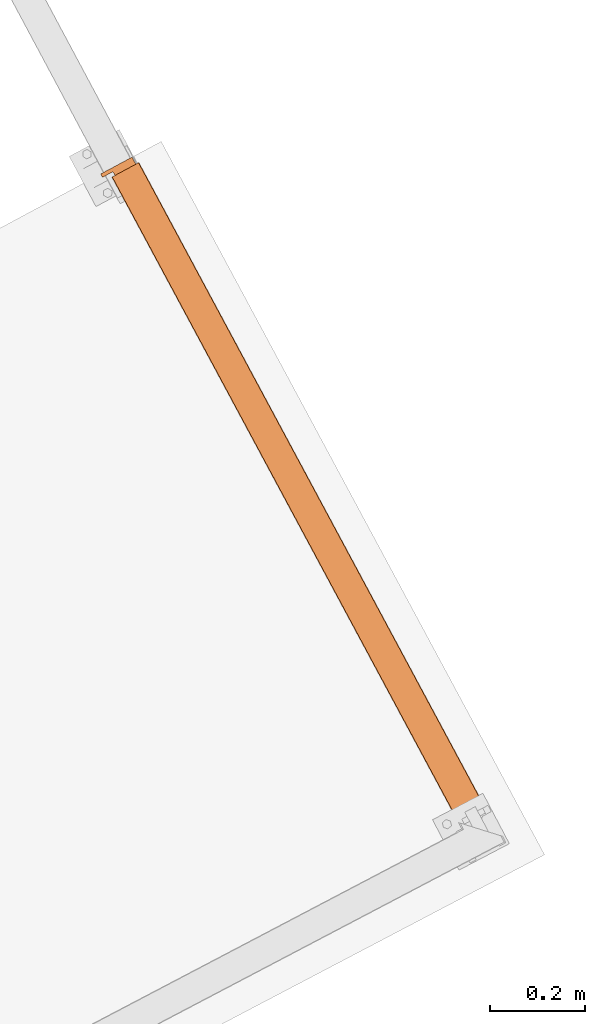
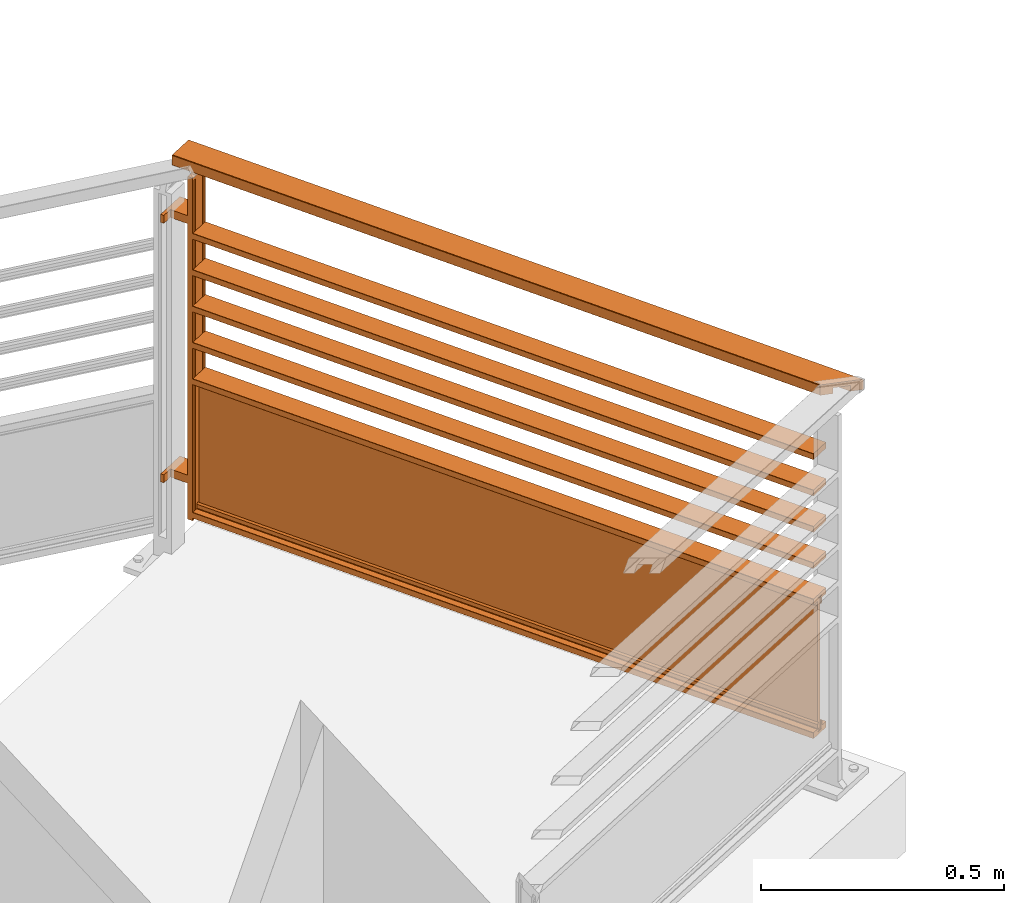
# One storey, part 121 of 121: 1 proxy.
"""IFC2X3 building model written with IfcOpenShell, lengths in metres."""

from ifc_helpers import new_model, entity, si_unit, converted_unit, derived_unit, money_unit, direction, frame, origin_with_axes, place, context, subcontext, project, spatial, faceted_brep, type_object, element, save


model = new_model("IFC2X3")

# Units and contexts
model_context = context("Model", 3, precision=1e-05, world=origin_with_axes(), true_north=direction((0.0, 1.0)))
body_context = subcontext(model_context, "Body", "Model", "MODEL_VIEW")
ifc_project = project(units=[si_unit("LENGTHUNIT", "METRE"), si_unit("AREAUNIT", "SQUARE_METRE"), si_unit("VOLUMEUNIT", "CUBIC_METRE"), converted_unit("PLANEANGLEUNIT", "DEGREE", entity("IfcPlaneAngleMeasure", 0.0174532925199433), si_unit("PLANEANGLEUNIT", "RADIAN"), dimensions=[0, 0, 0, 0, 0, 0, 0]), money_unit("CHF"), converted_unit("TIMEUNIT", "Year", entity("IfcTimeMeasure", 31557600.0), si_unit("TIMEUNIT", "SECOND"), dimensions=[0, 0, 1, 0, 0, 0, 0]), si_unit("MASSUNIT", "GRAM", prefix="KILO"), si_unit("THERMODYNAMICTEMPERATUREUNIT", "DEGREE_CELSIUS"), si_unit("LUMINOUSINTENSITYUNIT", "LUMEN"), si_unit("ENERGYUNIT", "JOULE", prefix="MEGA"), derived_unit("THERMALCONDUCTANCEUNIT", [(si_unit("POWERUNIT", "WATT"), 1), (si_unit("LENGTHUNIT", "METRE"), -1), (si_unit("THERMODYNAMICTEMPERATUREUNIT", "KELVIN"), -1)]), derived_unit("SPECIFICHEATCAPACITYUNIT", [(si_unit("ENERGYUNIT", "JOULE"), 1), (si_unit("MASSUNIT", "GRAM", prefix="KILO"), -1), (si_unit("THERMODYNAMICTEMPERATUREUNIT", "KELVIN"), -1)]), derived_unit("MASSDENSITYUNIT", [(si_unit("MASSUNIT", "GRAM", prefix="KILO"), 1), (si_unit("VOLUMEUNIT", "CUBIC_METRE"), -1)])], contexts=[model_context])

# Site, building, storey
site_placement = place(None, origin_with_axes())
site = spatial("IfcSite", under=ifc_project, at=site_placement, Name="Site", CompositionType="ELEMENT")
building_placement = place(site_placement, origin_with_axes())
building = spatial("IfcBuilding", under=site, at=building_placement, Name="Bâtiment", CompositionType="ELEMENT")
storey_placement = place(building_placement, frame((0.0, 0.0, 2.75), z_axis=(0.0, 0.0, 1.0), x_axis=(1.0, 0.0, 0.0)))
storey = spatial("IfcBuildingStorey", under=building, at=storey_placement, Name="Etage 1", CompositionType="ELEMENT", Elevation=2.75)

# Proxy
building_element_proxy_type = type_object("IfcBuildingElementProxyType", PredefinedType="NOTDEFINED")
proxy_placement = place(storey_placement, frame((9565.89406663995, -1029.67760909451, 57.7), z_axis=(0.0, 0.0, 1.0), x_axis=(0.4730779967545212, -0.8810205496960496, 0.0)))
element("IfcBuildingElementProxy", 1, at=proxy_placement, inside=storey, type_object=building_element_proxy_type, Name="Obj.-003", context=body_context, shape_type="Brep", body=[
    faceted_brep([(0.01999999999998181, -0.06350000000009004, 0.9731000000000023), (0.01700000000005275, -0.06349999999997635, 0.9731000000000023), (0.01699999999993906, -0.06250000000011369, 0.9741), (0.01999999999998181, -0.0625, 0.9741), (0.01999999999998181, -0.1265000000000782, 0.9731000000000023), (0.01699999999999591, -0.1264999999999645, 0.9731000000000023), (0.01699999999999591, -0.1274999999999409, 0.9741), (0.01699999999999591, -0.1274999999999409, 0.9981050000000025), (0.01699999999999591, -0.1265630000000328, 0.9991029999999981), (0.01699999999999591, -0.06343699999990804, 0.9991029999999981), (0.01699999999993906, -0.06250000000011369, 0.9981050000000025), (0.01999999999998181, -0.0625, 0.9981050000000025), (0.01999999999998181, -0.06343700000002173, 0.9991029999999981), (0.01999999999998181, -0.1265629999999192, 0.9991029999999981), (0.01999999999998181, -0.1275000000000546, 0.9981050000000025), (0.01999999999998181, -0.1275000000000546, 0.9741)], [[[0, 1, 2, 3]], [[4, 5, 1, 0]], [[1, 5, 6, 7, 8, 9, 10, 2]], [[3, 2, 10, 11]], [[0, 3, 11, 12, 13, 14, 15, 4]], [[15, 6, 5, 4]], [[14, 7, 6, 15]], [[13, 8, 7, 14]], [[12, 9, 8, 13]], [[11, 10, 9, 12]]]),
    faceted_brep([(0.01999999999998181, -0.0625, 0.9981050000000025), (0.01999999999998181, -0.0634368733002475, 0.9991030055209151), (1.645816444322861, -0.0634368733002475, 0.9991030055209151), (1.646753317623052, -0.0625, 0.9981050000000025), (0.01999999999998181, -0.0625, 0.9741), (0.01999999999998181, -0.06350000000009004, 0.9731000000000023), (0.01999999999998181, -0.08199999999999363, 0.9731000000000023), (0.01999999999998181, -0.08199999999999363, 0.9876999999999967), (0.01999999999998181, -0.1079999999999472, 0.9876999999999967), (0.01999999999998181, -0.1079999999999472, 0.9731000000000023), (0.01999999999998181, -0.1265000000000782, 0.9731000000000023), (0.01999999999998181, -0.1275000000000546, 0.9741), (0.01999999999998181, -0.1274999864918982, 0.9981051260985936), (0.01999999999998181, -0.1265632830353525, 0.9991029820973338), (1.582690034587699, -0.1265632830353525, 0.9991029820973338), (1.581753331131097, -0.1274999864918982, 0.9981051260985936), (1.581753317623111, -0.1275000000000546, 0.9741), (1.582753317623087, -0.1264999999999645, 0.9731000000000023), (1.601253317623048, -0.1079999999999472, 0.9731000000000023), (1.601253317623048, -0.1079999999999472, 0.9876999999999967), (1.627253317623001, -0.08200000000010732, 0.9876999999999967), (1.627253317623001, -0.08200000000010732, 0.9731000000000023), (1.645753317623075, -0.06349999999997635, 0.9731000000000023), (1.646753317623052, -0.0625, 0.9741)], [[[0, 1, 2, 3]], [[0, 4, 5, 6, 7, 8, 9, 10, 11, 12, 13, 1]], [[1, 13, 14, 2]], [[3, 2, 14, 15, 16, 17, 18, 19, 20, 21, 22, 23]], [[4, 0, 3, 23]], [[5, 4, 23, 22]], [[6, 5, 22, 21]], [[7, 6, 21, 20]], [[8, 7, 20, 19]], [[9, 8, 19, 18]], [[10, 9, 18, 17]], [[11, 10, 17, 16]], [[12, 11, 16, 15]], [[13, 12, 15, 14]]]),
    faceted_brep([(0.007999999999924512, -0.1200000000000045, 0.1839999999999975), (0.04949999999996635, -0.1200000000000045, 0.1839999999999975), (0.04949999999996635, -0.1200000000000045, 0.2040000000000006), (0.007999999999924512, -0.1200000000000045, 0.2040000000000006), (0.007999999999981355, -0.1450000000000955, 0.1839999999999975), (0.0, -0.1449999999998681, 0.1839999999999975), (0.0, -0.07000000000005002, 0.1839999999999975), (0.04949999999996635, -0.07000000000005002, 0.1839999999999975), (0.04949999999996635, -0.07000000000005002, 0.2040000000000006), (0.0, -0.07000000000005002, 0.2040000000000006), (0.0, -0.1449999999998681, 0.2040000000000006), (0.007999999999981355, -0.1450000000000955, 0.2040000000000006)], [[[0, 1, 2, 3]], [[0, 4, 5, 6, 7, 1]], [[1, 7, 8, 2]], [[3, 2, 8, 9, 10, 11]], [[4, 0, 3, 11]], [[5, 4, 11, 10]], [[6, 5, 10, 9]], [[7, 6, 9, 8]]]),
    faceted_brep([(0.007999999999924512, -0.1200000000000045, 0.8346000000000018), (0.04949999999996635, -0.1200000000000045, 0.8346000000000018), (0.04949999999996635, -0.1200000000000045, 0.8545999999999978), (0.007999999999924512, -0.1200000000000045, 0.8545999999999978), (0.007999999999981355, -0.1450000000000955, 0.8346000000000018), (0.0, -0.1449999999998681, 0.8346000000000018), (0.0, -0.07000000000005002, 0.8346000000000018), (0.04949999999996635, -0.07000000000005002, 0.8346000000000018), (0.04949999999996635, -0.07000000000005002, 0.8545999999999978), (0.0, -0.07000000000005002, 0.8545999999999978), (0.0, -0.1449999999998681, 0.8545999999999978), (0.007999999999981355, -0.1450000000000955, 0.8545999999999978)], [[[0, 1, 2, 3]], [[0, 4, 5, 6, 7, 1]], [[1, 7, 8, 2]], [[3, 2, 8, 9, 10, 11]], [[4, 0, 3, 11]], [[5, 4, 11, 10]], [[6, 5, 10, 9]], [[7, 6, 9, 8]]]),
    faceted_brep([(0.05619999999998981, -0.1080000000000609, 0.0940000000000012), (0.06199999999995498, -0.1080000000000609, 0.0940000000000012), (0.06199999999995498, -0.1080000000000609, 0.9446000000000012), (0.05619999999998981, -0.1080000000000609, 0.9446000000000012), (0.05619999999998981, -0.1140000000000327, 0.0940000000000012), (0.06199999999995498, -0.1140000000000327, 0.0940000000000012), (0.06200000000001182, -0.1200000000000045, 0.0940000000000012), (0.04999999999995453, -0.1200000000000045, 0.0940000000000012), (0.04999999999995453, -0.07000000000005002, 0.0940000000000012), (0.06199999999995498, -0.06999999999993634, 0.0940000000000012), (0.06200000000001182, -0.07600000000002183, 0.0940000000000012), (0.05619999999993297, -0.07600000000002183, 0.0940000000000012), (0.05619999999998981, -0.08199999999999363, 0.0940000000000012), (0.06200000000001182, -0.08199999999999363, 0.0940000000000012), (0.06200000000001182, -0.08199999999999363, 0.9446000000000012), (0.05619999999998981, -0.08199999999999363, 0.9446000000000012), (0.05619999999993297, -0.07600000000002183, 0.9446000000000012), (0.06200000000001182, -0.07600000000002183, 0.9446000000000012), (0.06199999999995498, -0.06999999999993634, 0.9446000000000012), (0.04999999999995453, -0.07000000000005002, 0.9446000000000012), (0.04999999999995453, -0.1200000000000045, 0.9446000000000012), (0.06200000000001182, -0.1200000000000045, 0.9446000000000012), (0.06199999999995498, -0.1140000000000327, 0.9446000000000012), (0.05619999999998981, -0.1140000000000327, 0.9446000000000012)], [[[0, 1, 2, 3]], [[0, 4, 5, 6, 7, 8, 9, 10, 11, 12, 13, 1]], [[1, 13, 14, 2]], [[3, 2, 14, 15, 16, 17, 18, 19, 20, 21, 22, 23]], [[4, 0, 3, 23]], [[5, 4, 23, 22]], [[6, 5, 22, 21]], [[7, 6, 21, 20]], [[8, 7, 20, 19]], [[9, 8, 19, 18]], [[10, 9, 18, 17]], [[11, 10, 17, 16]], [[12, 11, 16, 15]], [[13, 12, 15, 14]]]),
    faceted_brep([(0.06200000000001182, -0.1200000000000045, 0.9528999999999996), (0.06200000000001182, -0.1075000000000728, 0.9528999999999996), (0.04999999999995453, -0.1075000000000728, 0.9528999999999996), (0.04999999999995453, -0.1200000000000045, 0.9528999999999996), (0.06200000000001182, -0.1200000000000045, 0.9446000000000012), (0.06199999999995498, -0.06999999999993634, 0.9446000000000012), (0.06199999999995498, -0.06999999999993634, 0.9528999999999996), (0.06199999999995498, -0.08249999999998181, 0.9528999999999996), (0.06199999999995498, -0.08249999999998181, 0.9806000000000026), (0.06200000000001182, -0.1075000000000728, 0.9806000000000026), (0.04999999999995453, -0.1075000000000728, 0.9806000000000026), (0.04999999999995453, -0.0825000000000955, 0.9806000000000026), (0.04999999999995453, -0.0825000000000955, 0.9528999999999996), (0.04999999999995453, -0.07000000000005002, 0.9528999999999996), (0.04999999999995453, -0.07000000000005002, 0.9446000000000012), (0.04999999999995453, -0.1200000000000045, 0.9446000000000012)], [[[0, 1, 2, 3]], [[0, 4, 5, 6, 7, 8, 9, 1]], [[1, 9, 10, 2]], [[3, 2, 10, 11, 12, 13, 14, 15]], [[4, 0, 3, 15]], [[5, 4, 15, 14]], [[6, 5, 14, 13]], [[7, 6, 13, 12]], [[8, 7, 12, 11]], [[9, 8, 11, 10]]]),
    faceted_brep([(0.06200000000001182, -0.09939999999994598, 0.129207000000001), (1.561471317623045, -0.09939999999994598, 0.129207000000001), (1.561471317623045, -0.09939999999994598, 0.1107510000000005), (0.06200000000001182, -0.09939999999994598, 0.1107510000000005), (0.06200000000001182, -0.1036083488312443, 0.1266456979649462), (1.561471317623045, -0.1036083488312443, 0.1266456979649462), (1.561471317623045, -0.1014000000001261, 0.1266460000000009), (1.561471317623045, -0.1014000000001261, 0.1082510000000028), (1.561471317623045, -0.0886000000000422, 0.1082510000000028), (1.561471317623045, -0.0886000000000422, 0.1266460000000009), (1.561471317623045, -0.08639200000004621, 0.1266460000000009), (1.561471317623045, -0.09060045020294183, 0.1292068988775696), (1.561471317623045, -0.0905999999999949, 0.1107510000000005), (0.06199999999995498, -0.0905999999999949, 0.1107510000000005), (0.06200000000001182, -0.09060045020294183, 0.1292068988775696), (0.06200000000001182, -0.08639200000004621, 0.1266460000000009), (0.06199999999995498, -0.0886000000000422, 0.1266460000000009), (0.06199999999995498, -0.0886000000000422, 0.1082510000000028), (0.06199999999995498, -0.1014000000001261, 0.1082510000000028), (0.06199999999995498, -0.1014000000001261, 0.1266460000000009)], [[[0, 1, 2, 3]], [[4, 5, 1, 0]], [[1, 5, 6, 7, 8, 9, 10, 11, 12, 2]], [[3, 2, 12, 13]], [[0, 3, 13, 14, 15, 16, 17, 18, 19, 4]], [[19, 6, 5, 4]], [[18, 7, 6, 19]], [[17, 8, 7, 18]], [[16, 9, 8, 17]], [[15, 10, 9, 16]], [[14, 11, 10, 15]], [[13, 12, 11, 14]]]),
    faceted_brep([(0.06199999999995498, -0.08849999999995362, 0.1062999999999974), (1.561471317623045, -0.08849999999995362, 0.1062999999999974), (1.561471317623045, -0.08849999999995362, 0.1263000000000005), (0.06199999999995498, -0.08849999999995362, 0.1263000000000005), (0.06200000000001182, -0.1014999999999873, 0.1062999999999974), (1.561471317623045, -0.101500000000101, 0.1062999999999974), (1.561471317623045, -0.101500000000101, 0.1263000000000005), (1.561471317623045, -0.1029999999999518, 0.1263000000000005), (1.561471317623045, -0.1035000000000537, 0.1257999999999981), (1.561471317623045, -0.1035000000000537, 0.1159999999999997), (1.561471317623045, -0.10450000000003, 0.115000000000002), (1.561471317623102, -0.1194999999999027, 0.115000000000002), (1.561471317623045, -0.1200000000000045, 0.1144999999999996), (1.561471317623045, -0.1200000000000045, 0.1004999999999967), (1.561471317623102, -0.1194999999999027, 0.1000000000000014), (1.561471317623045, -0.0705000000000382, 0.1000000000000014), (1.561471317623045, -0.06999999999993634, 0.1004999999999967), (1.561471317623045, -0.06999999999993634, 0.1144999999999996), (1.561471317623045, -0.0705000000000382, 0.115000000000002), (1.561471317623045, -0.08550000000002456, 0.115000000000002), (1.561471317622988, -0.0865000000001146, 0.1159999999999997), (1.561471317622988, -0.0865000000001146, 0.1257999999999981), (1.561471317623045, -0.08664644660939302, 0.1261535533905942), (1.561471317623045, -0.08699999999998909, 0.1263000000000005), (0.06200000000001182, -0.08699999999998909, 0.1263000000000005), (0.06200000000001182, -0.08664644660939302, 0.1261535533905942), (0.06199999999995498, -0.0865000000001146, 0.1257999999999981), (0.06199999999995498, -0.0865000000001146, 0.1159999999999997), (0.06199999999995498, -0.08550000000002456, 0.115000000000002), (0.06199999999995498, -0.0705000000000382, 0.115000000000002), (0.06199999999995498, -0.06999999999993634, 0.1144999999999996), (0.06199999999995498, -0.06999999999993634, 0.1004999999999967), (0.06199999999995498, -0.0705000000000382, 0.1000000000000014), (0.06200000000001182, -0.1194999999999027, 0.1000000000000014), (0.06200000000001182, -0.1200000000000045, 0.1004999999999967), (0.06200000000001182, -0.1200000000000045, 0.1144999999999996), (0.06200000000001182, -0.1194999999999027, 0.115000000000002), (0.06200000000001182, -0.10450000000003, 0.115000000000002), (0.06200000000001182, -0.1035000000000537, 0.1159999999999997), (0.06200000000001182, -0.1035000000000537, 0.1257999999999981), (0.06199999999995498, -0.1030000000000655, 0.1263000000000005), (0.06200000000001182, -0.1014999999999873, 0.1263000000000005)], [[[0, 1, 2, 3]], [[4, 5, 1, 0]], [[1, 5, 6, 7, 8, 9, 10, 11, 12, 13, 14, 15, 16, 17, 18, 19, 20, 21, 22, 23, 2]], [[3, 2, 23, 24]], [[0, 3, 24, 25, 26, 27, 28, 29, 30, 31, 32, 33, 34, 35, 36, 37, 38, 39, 40, 41, 4]], [[41, 6, 5, 4]], [[40, 7, 6, 41]], [[39, 8, 7, 40]], [[38, 9, 8, 39]], [[37, 10, 9, 38]], [[36, 11, 10, 37]], [[35, 12, 11, 36]], [[34, 13, 12, 35]], [[33, 14, 13, 34]], [[32, 15, 14, 33]], [[31, 16, 15, 32]], [[30, 17, 16, 31]], [[29, 18, 17, 30]], [[28, 19, 18, 29]], [[27, 20, 19, 28]], [[26, 21, 20, 27]], [[25, 22, 21, 26]], [[24, 23, 22, 25]]]),
    faceted_brep([(0.06200000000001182, -0.09939999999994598, 0.4207930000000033), (0.06200000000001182, -0.09939999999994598, 0.4392489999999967), (1.561471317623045, -0.09939999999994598, 0.4392489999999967), (1.561471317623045, -0.09939999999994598, 0.4207930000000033), (0.06200000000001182, -0.1036083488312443, 0.423354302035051), (0.06199999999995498, -0.1014000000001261, 0.4233540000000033), (0.06199999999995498, -0.1014000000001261, 0.4417490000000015), (0.06199999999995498, -0.0886000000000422, 0.4417490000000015), (0.06199999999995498, -0.0886000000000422, 0.4233540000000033), (0.06200000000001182, -0.08639200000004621, 0.4233540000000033), (0.06200000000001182, -0.09060045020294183, 0.4207931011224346), (0.06199999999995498, -0.0905999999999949, 0.4392489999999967), (1.561471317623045, -0.0905999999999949, 0.4392489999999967), (1.561471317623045, -0.09060045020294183, 0.4207931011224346), (1.561471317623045, -0.08639200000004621, 0.4233540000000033), (1.561471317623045, -0.0886000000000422, 0.4233540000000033), (1.561471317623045, -0.0886000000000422, 0.4417490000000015), (1.561471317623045, -0.1014000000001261, 0.4417490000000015), (1.561471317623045, -0.1014000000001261, 0.4233540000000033), (1.561471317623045, -0.1036083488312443, 0.423354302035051)], [[[0, 1, 2, 3]], [[0, 4, 5, 6, 7, 8, 9, 10, 11, 1]], [[1, 11, 12, 2]], [[3, 2, 12, 13, 14, 15, 16, 17, 18, 19]], [[4, 0, 3, 19]], [[5, 4, 19, 18]], [[6, 5, 18, 17]], [[7, 6, 17, 16]], [[8, 7, 16, 15]], [[9, 8, 15, 14]], [[10, 9, 14, 13]], [[11, 10, 13, 12]]]),
    faceted_brep([(0.06199999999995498, -0.08849999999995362, 0.4436999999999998), (0.06199999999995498, -0.08849999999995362, 0.4236999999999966), (1.561471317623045, -0.08849999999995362, 0.4236999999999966), (1.561471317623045, -0.08849999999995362, 0.4436999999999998), (0.06200000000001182, -0.1014999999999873, 0.4436999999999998), (0.06200000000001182, -0.1014999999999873, 0.4236999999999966), (0.06199999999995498, -0.1030000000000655, 0.4236999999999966), (0.06200000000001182, -0.1035000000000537, 0.424199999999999), (0.06200000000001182, -0.1035000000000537, 0.4339999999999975), (0.06200000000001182, -0.10450000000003, 0.4350000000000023), (0.06200000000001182, -0.1194999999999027, 0.4350000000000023), (0.06200000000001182, -0.1200000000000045, 0.4354999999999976), (0.06200000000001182, -0.1200000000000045, 0.4495000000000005), (0.06200000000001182, -0.1194999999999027, 0.4500000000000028), (0.06199999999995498, -0.0705000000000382, 0.4500000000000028), (0.06199999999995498, -0.06999999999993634, 0.4495000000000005), (0.06199999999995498, -0.06999999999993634, 0.4354999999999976), (0.06199999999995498, -0.0705000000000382, 0.4350000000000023), (0.06199999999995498, -0.08550000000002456, 0.4350000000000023), (0.06199999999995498, -0.0865000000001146, 0.4339999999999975), (0.06199999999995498, -0.0865000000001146, 0.424199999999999), (0.06200000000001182, -0.08664644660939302, 0.4238464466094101), (0.06200000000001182, -0.08699999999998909, 0.4236999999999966), (1.561471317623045, -0.08699999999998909, 0.4236999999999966), (1.561471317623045, -0.08664644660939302, 0.4238464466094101), (1.561471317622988, -0.0865000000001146, 0.424199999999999), (1.561471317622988, -0.0865000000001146, 0.4339999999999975), (1.561471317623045, -0.08550000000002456, 0.4350000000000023), (1.561471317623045, -0.0705000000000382, 0.4350000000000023), (1.561471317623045, -0.06999999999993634, 0.4354999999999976), (1.561471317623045, -0.06999999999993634, 0.4495000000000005), (1.561471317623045, -0.0705000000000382, 0.4500000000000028), (1.561471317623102, -0.1194999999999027, 0.4500000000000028), (1.561471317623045, -0.1200000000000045, 0.4495000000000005), (1.561471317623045, -0.1200000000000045, 0.4354999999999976), (1.561471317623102, -0.1194999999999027, 0.4350000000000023), (1.561471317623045, -0.10450000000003, 0.4350000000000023), (1.561471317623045, -0.1035000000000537, 0.4339999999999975), (1.561471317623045, -0.1035000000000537, 0.424199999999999), (1.561471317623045, -0.1029999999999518, 0.4236999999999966), (1.561471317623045, -0.101500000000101, 0.4236999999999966), (1.561471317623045, -0.101500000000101, 0.4436999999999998)], [[[0, 1, 2, 3]], [[0, 4, 5, 6, 7, 8, 9, 10, 11, 12, 13, 14, 15, 16, 17, 18, 19, 20, 21, 22, 1]], [[1, 22, 23, 2]], [[3, 2, 23, 24, 25, 26, 27, 28, 29, 30, 31, 32, 33, 34, 35, 36, 37, 38, 39, 40, 41]], [[4, 0, 3, 41]], [[5, 4, 41, 40]], [[6, 5, 40, 39]], [[7, 6, 39, 38]], [[8, 7, 38, 37]], [[9, 8, 37, 36]], [[10, 9, 36, 35]], [[11, 10, 35, 34]], [[12, 11, 34, 33]], [[13, 12, 33, 32]], [[14, 13, 32, 31]], [[15, 14, 31, 30]], [[16, 15, 30, 29]], [[17, 16, 29, 28]], [[18, 17, 28, 27]], [[19, 18, 27, 26]], [[20, 19, 26, 25]], [[21, 20, 25, 24]], [[22, 21, 24, 23]]]),
    faceted_brep([(0.0644999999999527, -0.09940000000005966, 0.1120000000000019), (0.06450000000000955, -0.09059999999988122, 0.1120000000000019), (1.558971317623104, -0.0905999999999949, 0.1120000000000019), (1.558971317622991, -0.09940000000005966, 0.1120000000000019), (0.0644999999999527, -0.09940000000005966, 0.4380000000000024), (0.06450000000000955, -0.09059999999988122, 0.4380000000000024), (1.558971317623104, -0.0905999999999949, 0.4380000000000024), (1.558971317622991, -0.09940000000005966, 0.4380000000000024)], [[[0, 1, 2, 3]], [[1, 0, 4, 5]], [[2, 1, 5, 6]], [[3, 2, 6, 7]], [[0, 3, 7, 4]], [[5, 4, 7, 6]]]),
    faceted_brep([(0.06199999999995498, -0.06999999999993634, 0.8001000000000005), (0.06199999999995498, -0.06999999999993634, 0.8141000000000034), (1.561471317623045, -0.06999999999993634, 0.8141000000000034), (1.561471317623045, -0.06999999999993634, 0.8001000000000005), (0.06199999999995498, -0.0705000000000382, 0.7995999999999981), (0.06200000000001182, -0.1194999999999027, 0.7995999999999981), (0.06200000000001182, -0.1200000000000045, 0.8001000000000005), (0.06200000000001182, -0.1200000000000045, 0.8141000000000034), (0.06200000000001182, -0.1194999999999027, 0.8145999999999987), (0.06199999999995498, -0.0705000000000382, 0.8145999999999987), (1.561471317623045, -0.0705000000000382, 0.8145999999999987), (1.561471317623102, -0.1194999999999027, 0.8145999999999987), (1.561471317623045, -0.1200000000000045, 0.8141000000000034), (1.561471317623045, -0.1200000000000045, 0.8001000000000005), (1.561471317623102, -0.1194999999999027, 0.7995999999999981), (1.561471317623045, -0.0705000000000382, 0.7995999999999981)], [[[0, 1, 2, 3]], [[0, 4, 5, 6, 7, 8, 9, 1]], [[1, 9, 10, 2]], [[3, 2, 10, 11, 12, 13, 14, 15]], [[4, 0, 3, 15]], [[5, 4, 15, 14]], [[6, 5, 14, 13]], [[7, 6, 13, 12]], [[8, 7, 12, 11]], [[9, 8, 11, 10]]]),
    faceted_brep([(0.06199999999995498, -0.06999999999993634, 0.7089500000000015), (0.06199999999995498, -0.06999999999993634, 0.7229499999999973), (1.561471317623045, -0.06999999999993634, 0.7229499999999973), (1.561471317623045, -0.06999999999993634, 0.7089500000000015), (0.06199999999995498, -0.0705000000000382, 0.7084499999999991), (0.06200000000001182, -0.1194999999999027, 0.7084499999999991), (0.06200000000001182, -0.1200000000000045, 0.7089500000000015), (0.06200000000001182, -0.1200000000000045, 0.7229499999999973), (0.06200000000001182, -0.1194999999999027, 0.7234499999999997), (0.06199999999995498, -0.0705000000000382, 0.7234499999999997), (1.561471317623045, -0.0705000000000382, 0.7234499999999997), (1.561471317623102, -0.1194999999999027, 0.7234499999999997), (1.561471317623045, -0.1200000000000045, 0.7229499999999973), (1.561471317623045, -0.1200000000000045, 0.7089500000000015), (1.561471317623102, -0.1194999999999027, 0.7084499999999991), (1.561471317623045, -0.0705000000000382, 0.7084499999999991)], [[[0, 1, 2, 3]], [[0, 4, 5, 6, 7, 8, 9, 1]], [[1, 9, 10, 2]], [[3, 2, 10, 11, 12, 13, 14, 15]], [[4, 0, 3, 15]], [[5, 4, 15, 14]], [[6, 5, 14, 13]], [[7, 6, 13, 12]], [[8, 7, 12, 11]], [[9, 8, 11, 10]]]),
    faceted_brep([(0.06199999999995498, -0.06999999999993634, 0.6178000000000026), (0.06199999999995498, -0.06999999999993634, 0.6317999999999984), (1.561471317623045, -0.06999999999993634, 0.6317999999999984), (1.561471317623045, -0.06999999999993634, 0.6178000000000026), (0.06199999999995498, -0.0705000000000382, 0.6173000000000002), (0.06200000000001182, -0.1194999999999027, 0.6173000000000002), (0.06200000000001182, -0.1200000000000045, 0.6178000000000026), (0.06200000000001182, -0.1200000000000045, 0.6317999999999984), (0.06200000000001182, -0.1194999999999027, 0.6323000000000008), (0.06199999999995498, -0.0705000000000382, 0.6323000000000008), (1.561471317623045, -0.0705000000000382, 0.6323000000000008), (1.561471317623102, -0.1194999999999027, 0.6323000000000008), (1.561471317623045, -0.1200000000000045, 0.6317999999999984), (1.561471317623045, -0.1200000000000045, 0.6178000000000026), (1.561471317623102, -0.1194999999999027, 0.6173000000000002), (1.561471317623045, -0.0705000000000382, 0.6173000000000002)], [[[0, 1, 2, 3]], [[0, 4, 5, 6, 7, 8, 9, 1]], [[1, 9, 10, 2]], [[3, 2, 10, 11, 12, 13, 14, 15]], [[4, 0, 3, 15]], [[5, 4, 15, 14]], [[6, 5, 14, 13]], [[7, 6, 13, 12]], [[8, 7, 12, 11]], [[9, 8, 11, 10]]]),
    faceted_brep([(0.06199999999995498, -0.06999999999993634, 0.5266500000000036), (0.06199999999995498, -0.06999999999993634, 0.5406499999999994), (1.561471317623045, -0.06999999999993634, 0.5406499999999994), (1.561471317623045, -0.06999999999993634, 0.5266499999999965), (0.06199999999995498, -0.0705000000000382, 0.5261500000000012), (0.06200000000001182, -0.1194999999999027, 0.5261500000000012), (0.06200000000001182, -0.1200000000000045, 0.5266500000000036), (0.06200000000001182, -0.1200000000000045, 0.5406499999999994), (0.06200000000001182, -0.1194999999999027, 0.5411500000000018), (0.06199999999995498, -0.0705000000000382, 0.5411500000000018), (1.561471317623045, -0.0705000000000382, 0.5411500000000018), (1.561471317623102, -0.1194999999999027, 0.5411500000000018), (1.561471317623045, -0.1200000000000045, 0.5406499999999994), (1.561471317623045, -0.1200000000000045, 0.5266499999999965), (1.561471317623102, -0.1194999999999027, 0.5261500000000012), (1.561471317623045, -0.0705000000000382, 0.5261500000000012)], [[[0, 1, 2, 3]], [[0, 4, 5, 6, 7, 8, 9, 1]], [[1, 9, 10, 2]], [[3, 2, 10, 11, 12, 13, 14, 15]], [[4, 0, 3, 15]], [[5, 4, 15, 14]], [[6, 5, 14, 13]], [[7, 6, 13, 12]], [[8, 7, 12, 11]], [[9, 8, 11, 10]]]),
])

save(model, "model.ifc")
